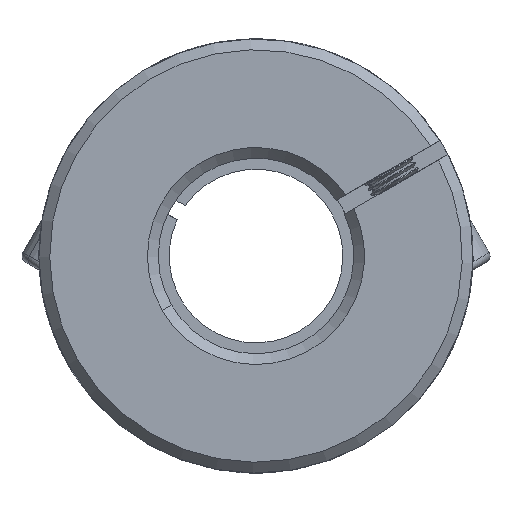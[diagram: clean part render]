
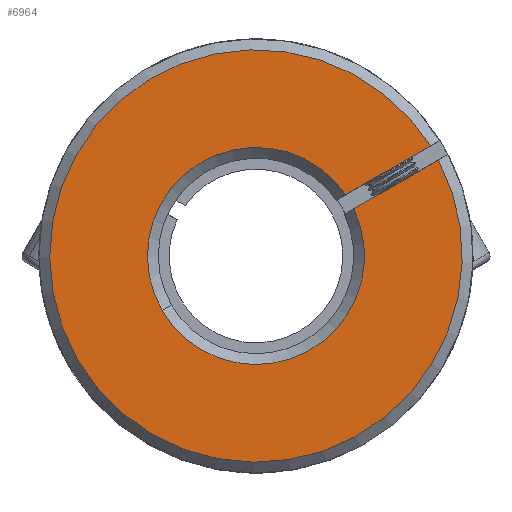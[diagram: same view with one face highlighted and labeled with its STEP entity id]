
A CAD part, front view. The second image highlights one B-rep face of the part: STEP entity #6964.
In plain terms, the highlighted planar face has unit normal (0, -1, 0).
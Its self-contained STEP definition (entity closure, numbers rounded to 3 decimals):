
#168 = AXIS2_PLACEMENT_3D ( 'NONE', #10700, #2474, #6019 ) ;
#210 = CARTESIAN_POINT ( 'NONE',  ( -1.447, -31.239, 40. ) ) ;
#221 = LINE ( 'NONE', #3119, #13578 ) ;
#732 = CIRCLE ( 'NONE', #11052, 10. ) ;
#768 = EDGE_CURVE ( 'NONE', #12228, #8908, #3135, .T. ) ;
#1525 = CARTESIAN_POINT ( 'NONE',  ( 14.616, -31.239, 50.147 ) ) ;
#1798 = DIRECTION ( 'NONE',  ( 0., 1., 0. ) ) ;
#1885 = LINE ( 'NONE', #8562, #8177 ) ;
#2474 = DIRECTION ( 'NONE',  ( 0., 1., 0. ) ) ;
#2658 = DIRECTION ( 'NONE',  ( 0., 1., 0. ) ) ;
#2716 = CIRCLE ( 'NONE', #168, 10. ) ;
#2983 = EDGE_CURVE ( 'NONE', #10281, #10416, #732, .T. ) ;
#3119 = CARTESIAN_POINT ( 'NONE',  ( 6.694, -31.239, 43.837 ) ) ;
#3135 = CIRCLE ( 'NONE', #11644, 19. ) ;
#3476 = CARTESIAN_POINT ( 'NONE',  ( -1.447, -31.239, 40. ) ) ;
#4017 = ORIENTED_EDGE ( 'NONE', *, *, #2983, .T. ) ;
#4166 = PLANE ( 'NONE',  #11498 ) ;
#4954 = EDGE_CURVE ( 'NONE', #10416, #11584, #2716, .T. ) ;
#4995 = DIRECTION ( 'NONE',  ( 0., -1., 0. ) ) ;
#5321 = DIRECTION ( 'NONE',  ( -0.866, 0., -0.5 ) ) ;
#5771 = ORIENTED_EDGE ( 'NONE', *, *, #768, .T. ) ;
#5899 = CARTESIAN_POINT ( 'NONE',  ( 6.812, -31.239, 45.638 ) ) ;
#6004 = EDGE_LOOP ( 'NONE', ( #8630, #4017, #11451, #10638, #5771 ) ) ;
#6019 = DIRECTION ( 'NONE',  ( 0.5, 0., -0.866 ) ) ;
#6367 = CARTESIAN_POINT ( 'NONE',  ( 7.562, -31.239, 44.339 ) ) ;
#6523 = EDGE_CURVE ( 'NONE', #12228, #11584, #1885, .T. ) ;
#6964 = ADVANCED_FACE ( 'NONE', ( #9490 ), #4166, .F. ) ;
#8177 = VECTOR ( 'NONE', #5321, 1000. ) ;
#8290 = DIRECTION ( 'NONE',  ( 0.5, 0., -0.866 ) ) ;
#8510 = CARTESIAN_POINT ( 'NONE',  ( 15.367, -31.239, 48.848 ) ) ;
#8562 = CARTESIAN_POINT ( 'NONE',  ( 5.943, -31.239, 45.136 ) ) ;
#8630 = ORIENTED_EDGE ( 'NONE', *, *, #12370, .F. ) ;
#8864 = DIRECTION ( 'NONE',  ( 0.5, 0., -0.866 ) ) ;
#8908 = VERTEX_POINT ( 'NONE', #8510 ) ;
#9490 = FACE_OUTER_BOUND ( 'NONE', #6004, .T. ) ;
#9755 = CARTESIAN_POINT ( 'NONE',  ( -10.106, -31.239, 34.997 ) ) ;
#10281 = VERTEX_POINT ( 'NONE', #6367 ) ;
#10416 = VERTEX_POINT ( 'NONE', #9755 ) ;
#10638 = ORIENTED_EDGE ( 'NONE', *, *, #6523, .F. ) ;
#10677 = DIRECTION ( 'NONE',  ( 0.866, 0., 0.5 ) ) ;
#10700 = CARTESIAN_POINT ( 'NONE',  ( -1.447, -31.239, 40. ) ) ;
#11052 = AXIS2_PLACEMENT_3D ( 'NONE', #210, #2658, #8864 ) ;
#11451 = ORIENTED_EDGE ( 'NONE', *, *, #4954, .T. ) ;
#11498 = AXIS2_PLACEMENT_3D ( 'NONE', #13838, #1798, #11620 ) ;
#11584 = VERTEX_POINT ( 'NONE', #5899 ) ;
#11620 = DIRECTION ( 'NONE',  ( 0.5, 0., -0.866 ) ) ;
#11644 = AXIS2_PLACEMENT_3D ( 'NONE', #3476, #4995, #8290 ) ;
#12228 = VERTEX_POINT ( 'NONE', #1525 ) ;
#12370 = EDGE_CURVE ( 'NONE', #10281, #8908, #221, .T. ) ;
#13578 = VECTOR ( 'NONE', #10677, 1000. ) ;
#13838 = CARTESIAN_POINT ( 'NONE',  ( 52.98, -31.239, 45.743 ) ) ;
